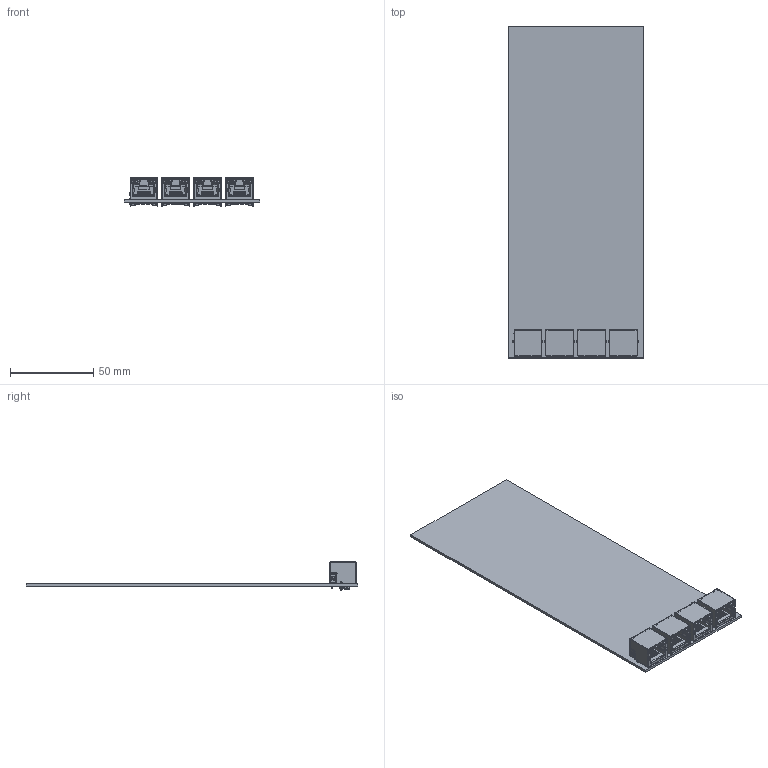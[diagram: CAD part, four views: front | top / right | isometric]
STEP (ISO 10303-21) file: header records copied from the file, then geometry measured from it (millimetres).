
FILE_DESCRIPTION(('KiCad electronic assembly'),'2;1');
FILE_NAME('ADC Board.step','2026-01-22T19:59:28',('Pcbnew'),('Kicad'), 'Open CASCADE STEP processor 7.8','KiCad to STEP converter','Unknown' );
FILE_SCHEMA(('AUTOMOTIVE_DESIGN { 1 0 10303 214 1 1 1 1 }'));
Length unit declared in the file: millimetre
Products named in the file (3): ADC Board 1; mtj-88arx1-fsm-lg-model; ADC Board_PCB
Assembly tree (5 placements, depth 2):
  ADC Board 1
    mtj-88arx1-fsm-lg-model  x4
    ADC Board_PCB
Bounding box: 81 x 199.1 x 16.93 mm (x, y, z)
Volume: 31344.6 mm3; surface area: 55853.4 mm2
Topology: 9 solids, 9 shells, 5146 faces, 15040 edges, 9644 vertices
Faces by surface type: plane 3838, cylinder 1164, bspline 128, cone 16
Full cylindrical faces by diameter (mm): 0.9 x48, 1.6 x8, 3.2 x8
Entity records: 46101 total; most frequent: CARTESIAN_POINT 10331, ORIENTED_EDGE 7826, DIRECTION 6940, EDGE_CURVE 3913, LINE 3148, VECTOR 3148, VERTEX_POINT 2513, AXIS2_PLACEMENT_3D 1896
